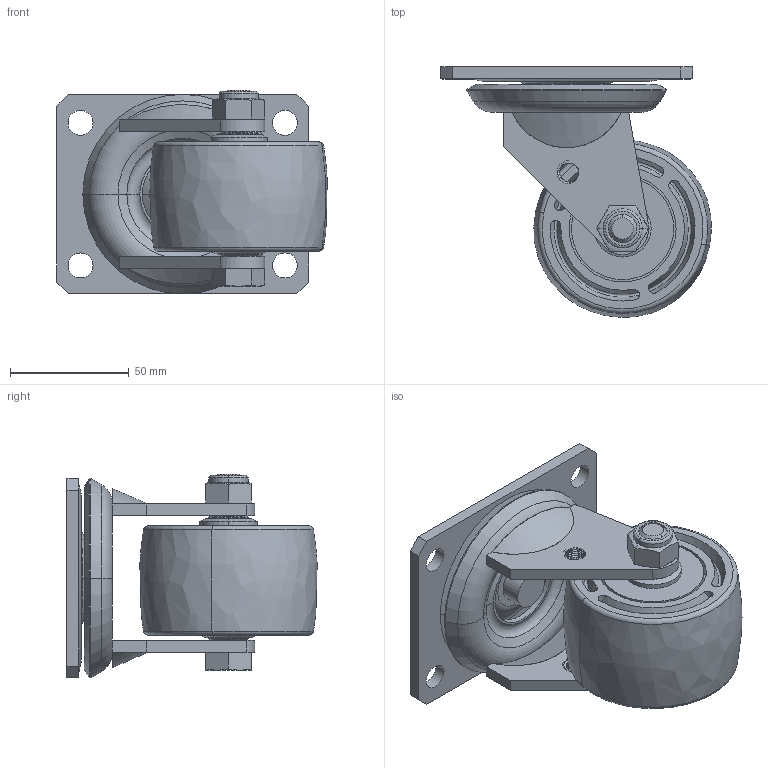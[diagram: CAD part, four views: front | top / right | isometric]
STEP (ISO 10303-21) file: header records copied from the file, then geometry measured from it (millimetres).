
FILE_DESCRIPTION((''),'2;1');
FILE_NAME('M72113_ASM','2023-01-09T',('lenovo'),(''),'PRO/ENGINEER BY PARAMETRIC TECHNOLOGY CORPORATION, 2010280','PRO/ENGINEER BY PARAMETRIC TECHNOLOGY CORPORATION, 2010280','');
FILE_SCHEMA(('CONFIG_CONTROL_DESIGN'));
Length unit declared in the file: millimetre
Products named in the file (12): 720-01; 710C03A; 720-31; 723C11A; 723C11A1; 723-816; 720-68; 720-54; 723-16_ASM; 720-33; 7010-34; M72113_ASM
Assembly tree (12 placements, depth 3):
  M72113_ASM
    720-01
    710C03A
    720-31
    723C11A
    723C11A1
    723-16_ASM
      723-816
      720-68  x2
      720-54
    720-33
    7010-34
Bounding box: 113.79 x 105.29 x 85.8 mm (x, y, z)
Volume: 249170.7 mm3; surface area: 88443.1 mm2
Topology: 11 solids, 17 shells, 285 faces, 642 edges, 410 vertices
Faces by surface type: cylinder 98, plane 73, cone 58, torus 38, bspline 18
Entity records: 10878 total; most frequent: CARTESIAN_POINT 4531, DIRECTION 1326, ORIENTED_EDGE 1212, EDGE_CURVE 614, AXIS2_PLACEMENT_3D 567, VERTEX_POINT 392, EDGE_LOOP 322, CIRCLE 282
